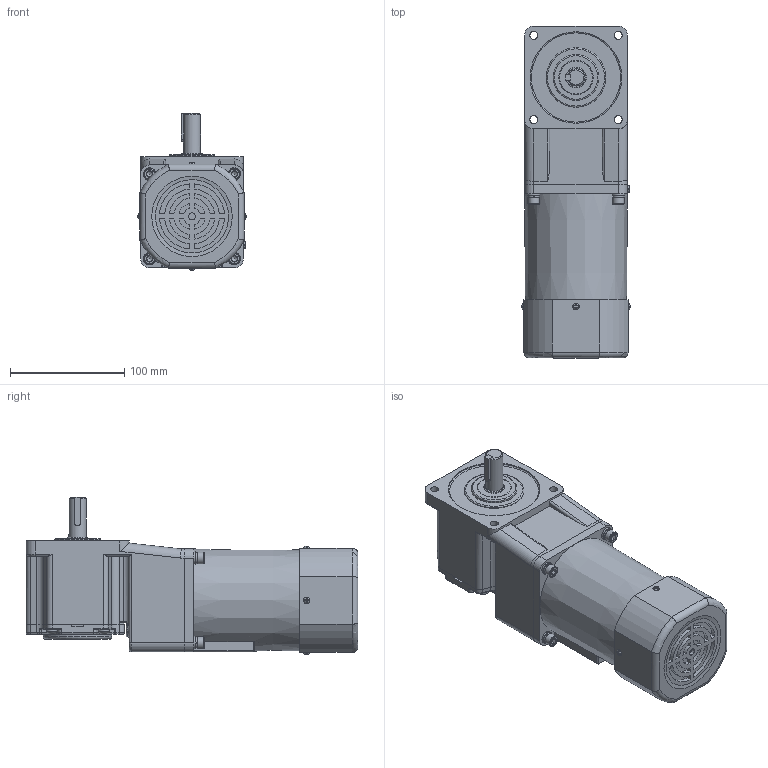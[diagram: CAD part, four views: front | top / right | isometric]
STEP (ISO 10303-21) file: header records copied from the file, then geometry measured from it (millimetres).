
FILE_DESCRIPTION(/* description */ (''),/* implementation_level */ '2;1');
FILE_NAME(/* name */ '90+中实直角-调速风叶-90W.stp',/* time_stamp */ '2022-11-01T13:40:40+08:00',/* author */ (''),/* organization */ (''),/* preprocessor_version */ 'ST-DEVELOPER v16.7',/* originating_system */ 'SIEMENS PLM Software NX 1899',/* authorisation */ '');
FILE_SCHEMA (('AP203_CONFIGURATION_CONTROLLED_3D_DESIGN_OF_MECHANICAL_PARTS_AND_ASSEMBLIES_MIM_LF { 1 0 10303 403 2 1 2}'));
Length unit declared in the file: millimetre
Products named in the file (1): yf1854BC0762nk4d
Bounding box: 94.8 x 290 x 137.4 mm (x, y, z)
Volume: 2004708.4 mm3; surface area: 159498.5 mm2
Topology: 15 solids, 16 shells, 712 faces, 1664 edges, 1021 vertices
Faces by surface type: plane 373, cylinder 220, torus 59, cone 45, sphere 8, bspline 7
Full cylindrical faces by diameter (mm): 5 x4, 5.5 x4, 5.6 x1, 5.795 x4, 6 x1, 6.4 x4, 7 x9, 9.5 x4, 10 x4, 11 x4, 15 x1, 18 x1, 30 x1, 40 x1, 52 x1, 60 x1, 67 x1, 76 x1, 80 x1, 86 x2
Entity records: 22036 total; most frequent: CARTESIAN_POINT 5087, DIRECTION 3301, ORIENTED_EDGE 3040, EDGE_CURVE 1520, AXIS2_PLACEMENT_3D 1256, VERTEX_POINT 983, EDGE_LOOP 871, LINE 789
